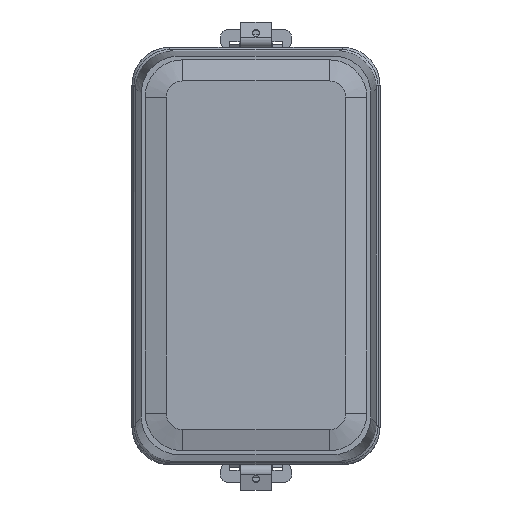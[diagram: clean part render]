
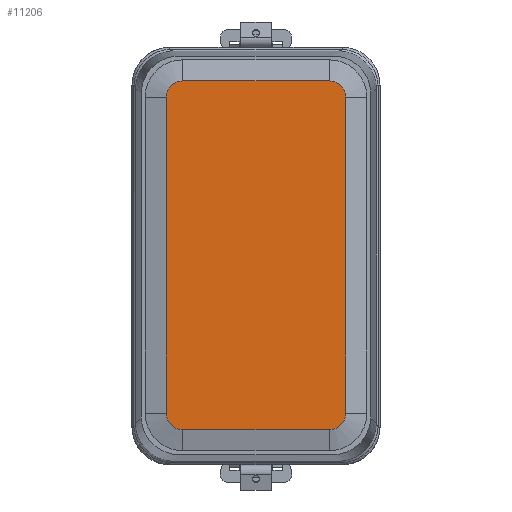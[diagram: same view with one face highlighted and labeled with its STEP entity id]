
A CAD part, top view. The second image highlights one B-rep face of the part: STEP entity #11206.
In plain terms, the highlighted planar face has unit normal (0, 0, 1).
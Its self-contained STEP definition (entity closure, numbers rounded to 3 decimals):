
#11206=ADVANCED_FACE('',(#27972),#27974,.F.);
#27972=FACE_BOUND('',#27973,.T.);
#27973=EDGE_LOOP('',(#39512,#39513,#39514,#39515,#39516,#39517,#39518,#39519));
#27974=PLANE('',#27975);
#27975=AXIS2_PLACEMENT_3D('',#27976,#27977,#27978);
#27976=CARTESIAN_POINT('',(0.,0.,149.5));
#27977=DIRECTION('',(-0.,0.,-1.));
#27978=DIRECTION('',(-1.,0.,0.));
#39512=ORIENTED_EDGE('',*,*,#53552,.T.);
#39513=ORIENTED_EDGE('',*,*,#53567,.T.);
#39514=ORIENTED_EDGE('',*,*,#53565,.T.);
#39515=ORIENTED_EDGE('',*,*,#53563,.T.);
#39516=ORIENTED_EDGE('',*,*,#53561,.T.);
#39517=ORIENTED_EDGE('',*,*,#53559,.T.);
#39518=ORIENTED_EDGE('',*,*,#53557,.T.);
#39519=ORIENTED_EDGE('',*,*,#53555,.T.);
#53552=EDGE_CURVE('',#60618,#60619,#60620,.F.);
#53555=EDGE_CURVE('',#60623,#60618,#60624,.T.);
#53557=EDGE_CURVE('',#60626,#60623,#60627,.F.);
#53559=EDGE_CURVE('',#60629,#60626,#60630,.T.);
#53561=EDGE_CURVE('',#60632,#60629,#60633,.F.);
#53563=EDGE_CURVE('',#60635,#60632,#60636,.T.);
#53565=EDGE_CURVE('',#60638,#60635,#60639,.F.);
#53567=EDGE_CURVE('',#60619,#60638,#60641,.T.);
#60618=VERTEX_POINT('',#81052);
#60619=VERTEX_POINT('',#81053);
#60620=LINE('',#81054,#81055);
#60623=VERTEX_POINT('',#81063);
#60624=CIRCLE('',#81064,4.4);
#60626=VERTEX_POINT('',#81071);
#60627=LINE('',#81072,#81073);
#60629=VERTEX_POINT('',#81078);
#60630=CIRCLE('',#81079,4.4);
#60632=VERTEX_POINT('',#81086);
#60633=LINE('',#81087,#81088);
#60635=VERTEX_POINT('',#81093);
#60636=CIRCLE('',#81094,4.4);
#60638=VERTEX_POINT('',#81101);
#60639=LINE('',#81102,#81103);
#60641=CIRCLE('',#81108,4.4);
#81052=CARTESIAN_POINT('',(-19.5,-46.4,149.5));
#81053=CARTESIAN_POINT('',(19.5,-46.4,149.5));
#81054=CARTESIAN_POINT('',(19.5,-46.4,149.5));
#81055=VECTOR('',#81056,1.);
#81056=DIRECTION('',(-1.,0.,0.));
#81063=CARTESIAN_POINT('',(-23.9,-42.,149.5));
#81064=AXIS2_PLACEMENT_3D('',#81065,#81066,#81067);
#81065=CARTESIAN_POINT('',(-19.5,-42.,149.5));
#81066=DIRECTION('',(0.,0.,1.));
#81067=DIRECTION('',(-1.,0.,0.));
#81071=CARTESIAN_POINT('',(-23.9,42.,149.5));
#81072=CARTESIAN_POINT('',(-23.9,-42.,149.5));
#81073=VECTOR('',#81074,1.);
#81074=DIRECTION('',(0.,1.,0.));
#81078=CARTESIAN_POINT('',(-19.5,46.4,149.5));
#81079=AXIS2_PLACEMENT_3D('',#81080,#81081,#81082);
#81080=CARTESIAN_POINT('',(-19.5,42.,149.5));
#81081=DIRECTION('',(0.,-0.,1.));
#81082=DIRECTION('',(0.,1.,0.));
#81086=CARTESIAN_POINT('',(19.5,46.4,149.5));
#81087=CARTESIAN_POINT('',(-19.5,46.4,149.5));
#81088=VECTOR('',#81089,1.);
#81089=DIRECTION('',(1.,0.,0.));
#81093=CARTESIAN_POINT('',(23.9,42.,149.5));
#81094=AXIS2_PLACEMENT_3D('',#81095,#81096,#81097);
#81095=CARTESIAN_POINT('',(19.5,42.,149.5));
#81096=DIRECTION('',(0.,0.,1.));
#81097=DIRECTION('',(1.,0.,0.));
#81101=CARTESIAN_POINT('',(23.9,-42.,149.5));
#81102=CARTESIAN_POINT('',(23.9,42.,149.5));
#81103=VECTOR('',#81104,1.);
#81104=DIRECTION('',(0.,-1.,0.));
#81108=AXIS2_PLACEMENT_3D('',#81109,#81110,#81111);
#81109=CARTESIAN_POINT('',(19.5,-42.,149.5));
#81110=DIRECTION('',(0.,0.,1.));
#81111=DIRECTION('',(0.,-1.,0.));
